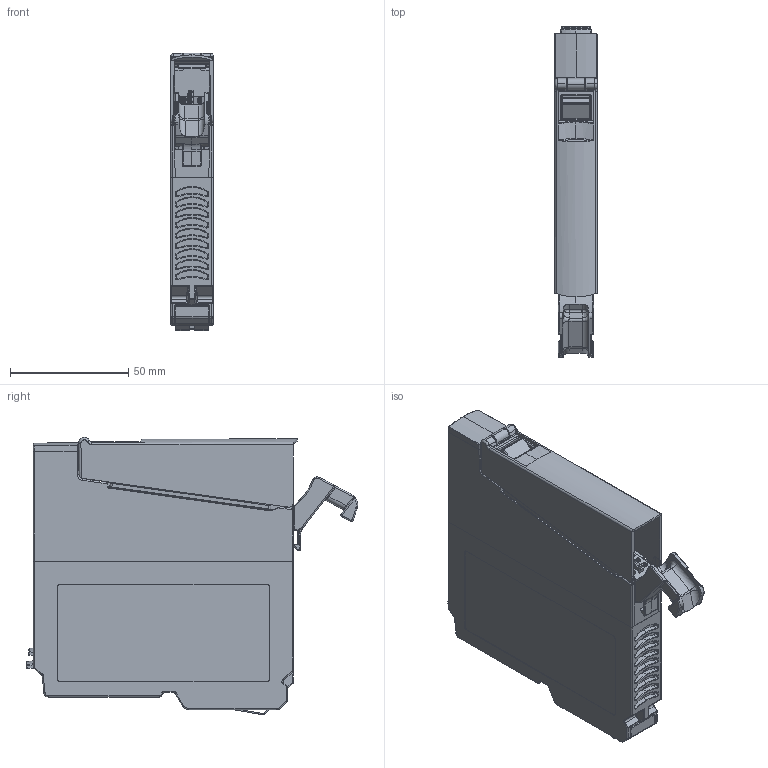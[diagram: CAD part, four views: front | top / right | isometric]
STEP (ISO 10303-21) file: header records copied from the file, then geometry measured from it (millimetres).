
FILE_DESCRIPTION (( 'STEP AP214' ), '1' );
FILE_NAME ('NX1001_20130820.STEP', '2013-08-20T10:46:31', ( 'ALTUS' ), ( '' ), 'SwSTEP 2.0', 'SolidWorks 2011', '' );
FILE_SCHEMA (( 'AUTOMOTIVE_DESIGN' ));
Length unit declared in the file: millimetre
Products named in the file (1): NX1001_20130820
Bounding box: 17.9 x 140.24 x 117.46 mm (x, y, z)
Volume: 181235.2 mm3; surface area: 63157.2 mm2
Topology: 12 solids, 13 shells, 2759 faces, 7030 edges, 4473 vertices
Faces by surface type: plane 1565, cylinder 489, bspline 456, torus 114, cone 107, sphere 28
Entity records: 126925 total; most frequent: CARTESIAN_POINT 33730, ORIENTED_EDGE 14032, DIRECTION 11443, EDGE_CURVE 7016, VECTOR 4519, LINE 4519, VERTEX_POINT 4473, AXIS2_PLACEMENT_3D 3462
